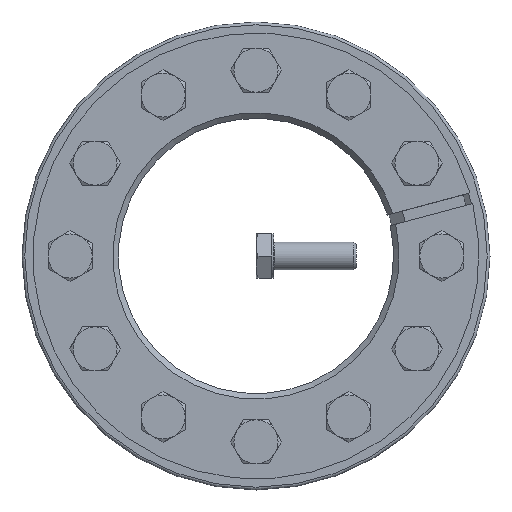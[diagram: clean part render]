
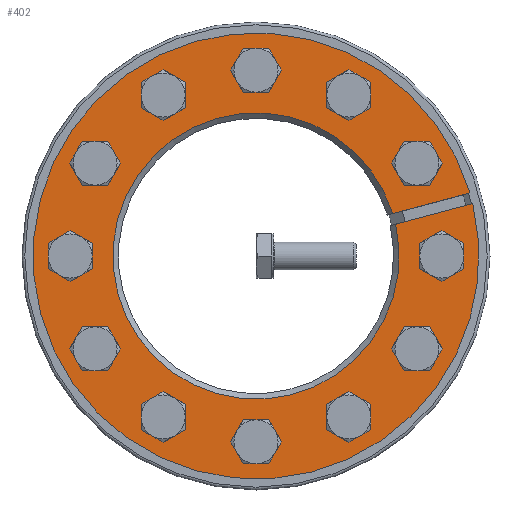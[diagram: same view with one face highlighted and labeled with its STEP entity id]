
A CAD part, front view. The second image highlights one B-rep face of the part: STEP entity #402.
In plain terms, the highlighted planar face has unit normal (0, -1, 0).
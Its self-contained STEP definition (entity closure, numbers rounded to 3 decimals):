
#402 = ADVANCED_FACE( '', ( #654, #655, #656, #657, #658, #659, #660, #661, #662, #663, #664, #665, #666 ), #667, .F. );
#654 = FACE_BOUND( '', #820, .T. );
#655 = FACE_BOUND( '', #821, .T. );
#656 = FACE_BOUND( '', #822, .T. );
#657 = FACE_BOUND( '', #823, .T. );
#658 = FACE_BOUND( '', #824, .T. );
#659 = FACE_BOUND( '', #825, .T. );
#660 = FACE_OUTER_BOUND( '', #826, .T. );
#661 = FACE_BOUND( '', #827, .T. );
#662 = FACE_BOUND( '', #828, .T. );
#663 = FACE_BOUND( '', #829, .T. );
#664 = FACE_BOUND( '', #830, .T. );
#665 = FACE_BOUND( '', #831, .T. );
#666 = FACE_BOUND( '', #832, .T. );
#667 = PLANE( '', #833 );
#820 = EDGE_LOOP( '', ( #1093 ) );
#821 = EDGE_LOOP( '', ( #1094 ) );
#822 = EDGE_LOOP( '', ( #1095 ) );
#823 = EDGE_LOOP( '', ( #1096 ) );
#824 = EDGE_LOOP( '', ( #1097 ) );
#825 = EDGE_LOOP( '', ( #1098 ) );
#826 = EDGE_LOOP( '', ( #1099, #1100, #1101, #1102 ) );
#827 = EDGE_LOOP( '', ( #1103 ) );
#828 = EDGE_LOOP( '', ( #1104 ) );
#829 = EDGE_LOOP( '', ( #1105 ) );
#830 = EDGE_LOOP( '', ( #1106 ) );
#831 = EDGE_LOOP( '', ( #1107 ) );
#832 = EDGE_LOOP( '', ( #1108 ) );
#833 = AXIS2_PLACEMENT_3D( '', #1109, #1110, #1111 );
#1093 = ORIENTED_EDGE( '', *, *, #1400, .T. );
#1094 = ORIENTED_EDGE( '', *, *, #1401, .T. );
#1095 = ORIENTED_EDGE( '', *, *, #1402, .T. );
#1096 = ORIENTED_EDGE( '', *, *, #1403, .T. );
#1097 = ORIENTED_EDGE( '', *, *, #1404, .T. );
#1098 = ORIENTED_EDGE( '', *, *, #1399, .T. );
#1099 = ORIENTED_EDGE( '', *, *, #1382, .T. );
#1100 = ORIENTED_EDGE( '', *, *, #1385, .T. );
#1101 = ORIENTED_EDGE( '', *, *, #1393, .T. );
#1102 = ORIENTED_EDGE( '', *, *, #1377, .F. );
#1103 = ORIENTED_EDGE( '', *, *, #1405, .T. );
#1104 = ORIENTED_EDGE( '', *, *, #1406, .T. );
#1105 = ORIENTED_EDGE( '', *, *, #1407, .T. );
#1106 = ORIENTED_EDGE( '', *, *, #1408, .T. );
#1107 = ORIENTED_EDGE( '', *, *, #1409, .T. );
#1108 = ORIENTED_EDGE( '', *, *, #1410, .T. );
#1109 = CARTESIAN_POINT( '', ( 0., 0., 85. ) );
#1110 = DIRECTION( '', ( 0., 1., 0. ) );
#1111 = DIRECTION( '', ( 0., 0., 1. ) );
#1377 = EDGE_CURVE( '', #1530, #1532, #1533, .T. );
#1382 = EDGE_CURVE( '', #1530, #1538, #1541, .T. );
#1385 = EDGE_CURVE( '', #1538, #1544, #1546, .T. );
#1393 = EDGE_CURVE( '', #1544, #1532, #1558, .T. );
#1399 = EDGE_CURVE( '', #1565, #1565, #1566, .T. );
#1400 = EDGE_CURVE( '', #1567, #1567, #1568, .T. );
#1401 = EDGE_CURVE( '', #1569, #1569, #1570, .T. );
#1402 = EDGE_CURVE( '', #1571, #1571, #1572, .T. );
#1403 = EDGE_CURVE( '', #1573, #1573, #1574, .T. );
#1404 = EDGE_CURVE( '', #1575, #1575, #1576, .T. );
#1405 = EDGE_CURVE( '', #1577, #1577, #1578, .T. );
#1406 = EDGE_CURVE( '', #1579, #1579, #1580, .T. );
#1407 = EDGE_CURVE( '', #1581, #1581, #1582, .T. );
#1408 = EDGE_CURVE( '', #1583, #1583, #1584, .T. );
#1409 = EDGE_CURVE( '', #1585, #1585, #1586, .T. );
#1410 = EDGE_CURVE( '', #1587, #1587, #1588, .T. );
#1530 = VERTEX_POINT( '', #1651 );
#1532 = VERTEX_POINT( '', #1656 );
#1533 = LINE( '', #1657, #1658 );
#1538 = VERTEX_POINT( '', #1668 );
#1541 = CIRCLE( '', #1674, 81. );
#1544 = VERTEX_POINT( '', #1677 );
#1546 = LINE( '', #1682, #1683 );
#1558 = CIRCLE( '', #1703, 52. );
#1565 = VERTEX_POINT( '', #1712 );
#1566 = CIRCLE( '', #1713, 5. );
#1567 = VERTEX_POINT( '', #1714 );
#1568 = CIRCLE( '', #1715, 5. );
#1569 = VERTEX_POINT( '', #1716 );
#1570 = CIRCLE( '', #1717, 5. );
#1571 = VERTEX_POINT( '', #1718 );
#1572 = CIRCLE( '', #1719, 5. );
#1573 = VERTEX_POINT( '', #1720 );
#1574 = CIRCLE( '', #1721, 5. );
#1575 = VERTEX_POINT( '', #1722 );
#1576 = CIRCLE( '', #1723, 5. );
#1577 = VERTEX_POINT( '', #1724 );
#1578 = CIRCLE( '', #1725, 5. );
#1579 = VERTEX_POINT( '', #1726 );
#1580 = CIRCLE( '', #1727, 5. );
#1581 = VERTEX_POINT( '', #1728 );
#1582 = CIRCLE( '', #1729, 5. );
#1583 = VERTEX_POINT( '', #1730 );
#1584 = CIRCLE( '', #1731, 5. );
#1585 = VERTEX_POINT( '', #1732 );
#1586 = CIRCLE( '', #1733, 5. );
#1587 = VERTEX_POINT( '', #1734 );
#1588 = CIRCLE( '', #1735, 5. );
#1651 = CARTESIAN_POINT( '', ( 77.699, 0., 22.89 ) );
#1656 = CARTESIAN_POINT( '', ( 49.673, 0., 15.38 ) );
#1657 = CARTESIAN_POINT( '', ( 77.722, 0., 22.896 ) );
#1658 = VECTOR( '', #1790, 1000. );
#1668 = CARTESIAN_POINT( '', ( 78.734, 0., 19.026 ) );
#1674 = AXIS2_PLACEMENT_3D( '', #1793, #1794, #1795 );
#1677 = CARTESIAN_POINT( '', ( 50.709, 0., 11.517 ) );
#1682 = CARTESIAN_POINT( '', ( 78.758, 0., 19.032 ) );
#1683 = VECTOR( '', #1799, 1000. );
#1703 = AXIS2_PLACEMENT_3D( '', #1808, #1809, #1810 );
#1712 = CARTESIAN_POINT( '', ( 67.5, 0., -5. ) );
#1713 = AXIS2_PLACEMENT_3D( '', #1822, #1823, #1824 );
#1714 = CARTESIAN_POINT( '', ( 29.42, 0., -60.957 ) );
#1715 = AXIS2_PLACEMENT_3D( '', #1825, #1826, #1827 );
#1716 = CARTESIAN_POINT( '', ( -38.08, 0., -55.957 ) );
#1717 = AXIS2_PLACEMENT_3D( '', #1828, #1829, #1830 );
#1718 = CARTESIAN_POINT( '', ( -67.5, 0., 5. ) );
#1719 = AXIS2_PLACEMENT_3D( '', #1831, #1832, #1833 );
#1720 = CARTESIAN_POINT( '', ( -29.42, 0., 60.957 ) );
#1721 = AXIS2_PLACEMENT_3D( '', #1834, #1835, #1836 );
#1722 = CARTESIAN_POINT( '', ( 38.08, 0., 55.957 ) );
#1723 = AXIS2_PLACEMENT_3D( '', #1837, #1838, #1839 );
#1724 = CARTESIAN_POINT( '', ( 60.957, 0., 29.42 ) );
#1725 = AXIS2_PLACEMENT_3D( '', #1840, #1841, #1842 );
#1726 = CARTESIAN_POINT( '', ( 5., 0., 67.5 ) );
#1727 = AXIS2_PLACEMENT_3D( '', #1843, #1844, #1845 );
#1728 = CARTESIAN_POINT( '', ( -55.957, 0., 38.08 ) );
#1729 = AXIS2_PLACEMENT_3D( '', #1846, #1847, #1848 );
#1730 = CARTESIAN_POINT( '', ( -60.957, 0., -29.42 ) );
#1731 = AXIS2_PLACEMENT_3D( '', #1849, #1850, #1851 );
#1732 = CARTESIAN_POINT( '', ( -5., 0., -67.5 ) );
#1733 = AXIS2_PLACEMENT_3D( '', #1852, #1853, #1854 );
#1734 = CARTESIAN_POINT( '', ( 55.957, 0., -38.08 ) );
#1735 = AXIS2_PLACEMENT_3D( '', #1855, #1856, #1857 );
#1790 = DIRECTION( '', ( -0.966, 0., -0.259 ) );
#1793 = CARTESIAN_POINT( '', ( 0., 0., 0. ) );
#1794 = DIRECTION( '', ( 0., -1., 0. ) );
#1795 = DIRECTION( '', ( 0., 0., -1. ) );
#1799 = DIRECTION( '', ( -0.966, 0., -0.259 ) );
#1808 = CARTESIAN_POINT( '', ( 0., 0., 0. ) );
#1809 = DIRECTION( '', ( 0., 1., 0. ) );
#1810 = DIRECTION( '', ( 0., 0., 1. ) );
#1822 = CARTESIAN_POINT( '', ( 67.5, 0., 0. ) );
#1823 = DIRECTION( '', ( 0., 1., 0. ) );
#1824 = DIRECTION( '', ( 0., 0., -1. ) );
#1825 = CARTESIAN_POINT( '', ( 33.75, 0., -58.457 ) );
#1826 = DIRECTION( '', ( 0., 1., 0. ) );
#1827 = DIRECTION( '', ( -0.866, 0., -0.5 ) );
#1828 = CARTESIAN_POINT( '', ( -33.75, 0., -58.457 ) );
#1829 = DIRECTION( '', ( 0., 1., 0. ) );
#1830 = DIRECTION( '', ( -0.866, 0., 0.5 ) );
#1831 = CARTESIAN_POINT( '', ( -67.5, 0., 0. ) );
#1832 = DIRECTION( '', ( 0., 1., 0. ) );
#1833 = DIRECTION( '', ( 0., 0., 1. ) );
#1834 = CARTESIAN_POINT( '', ( -33.75, 0., 58.457 ) );
#1835 = DIRECTION( '', ( 0., 1., 0. ) );
#1836 = DIRECTION( '', ( 0.866, 0., 0.5 ) );
#1837 = CARTESIAN_POINT( '', ( 33.75, 0., 58.457 ) );
#1838 = DIRECTION( '', ( 0., 1., 0. ) );
#1839 = DIRECTION( '', ( 0.866, 0., -0.5 ) );
#1840 = CARTESIAN_POINT( '', ( 58.457, 0., 33.75 ) );
#1841 = DIRECTION( '', ( 0., 1., 0. ) );
#1842 = DIRECTION( '', ( 0.5, 0., -0.866 ) );
#1843 = CARTESIAN_POINT( '', ( 0., 0., 67.5 ) );
#1844 = DIRECTION( '', ( 0., 1., 0. ) );
#1845 = DIRECTION( '', ( 1., 0., 0. ) );
#1846 = CARTESIAN_POINT( '', ( -58.457, 0., 33.75 ) );
#1847 = DIRECTION( '', ( 0., 1., 0. ) );
#1848 = DIRECTION( '', ( 0.5, 0., 0.866 ) );
#1849 = CARTESIAN_POINT( '', ( -58.457, 0., -33.75 ) );
#1850 = DIRECTION( '', ( 0., 1., 0. ) );
#1851 = DIRECTION( '', ( -0.5, 0., 0.866 ) );
#1852 = CARTESIAN_POINT( '', ( 0., 0., -67.5 ) );
#1853 = DIRECTION( '', ( 0., 1., 0. ) );
#1854 = DIRECTION( '', ( -1., 0., 0. ) );
#1855 = CARTESIAN_POINT( '', ( 58.457, 0., -33.75 ) );
#1856 = DIRECTION( '', ( 0., 1., 0. ) );
#1857 = DIRECTION( '', ( -0.5, 0., -0.866 ) );
